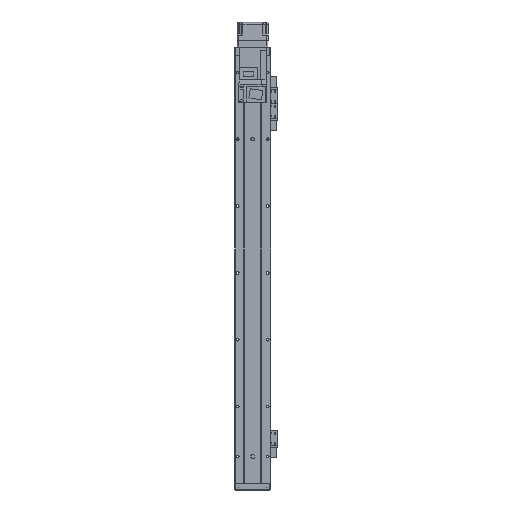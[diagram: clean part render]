
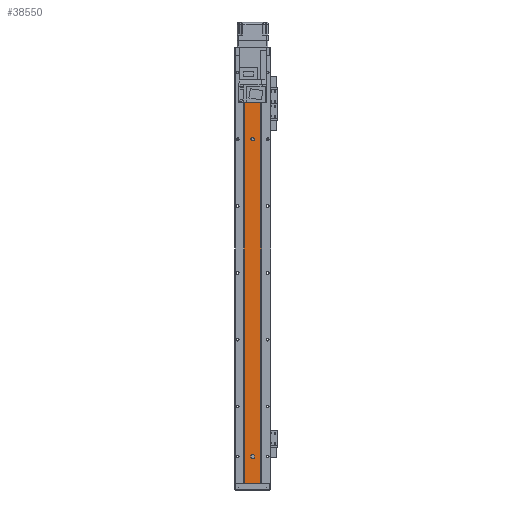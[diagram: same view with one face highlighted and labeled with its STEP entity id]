
A CAD part, front view. The second image highlights one B-rep face of the part: STEP entity #38550.
In plain terms, the highlighted planar face has unit normal (0, -1, 0).
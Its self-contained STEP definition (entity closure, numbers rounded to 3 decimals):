
#325 = CARTESIAN_POINT ( 'NONE',  ( 0., 1.5, -125. ) ) ;
#971 = DIRECTION ( 'NONE',  ( 0., 0., 1. ) ) ;
#1256 = CARTESIAN_POINT ( 'NONE',  ( 12.293, 1.5, -640. ) ) ;
#1282 = DIRECTION ( 'NONE',  ( 0., 0., 1. ) ) ;
#2269 = EDGE_CURVE ( 'NONE', #11235, #27873, #35927, .T. ) ;
#2635 = EDGE_CURVE ( 'NONE', #16797, #16309, #27001, .T. ) ;
#3225 = DIRECTION ( 'NONE',  ( 1., 0., 0. ) ) ;
#3470 = AXIS2_PLACEMENT_3D ( 'NONE', #12808, #33696, #15839 ) ;
#3567 = EDGE_CURVE ( 'NONE', #33153, #11235, #9021, .T. ) ;
#3621 = CARTESIAN_POINT ( 'NONE',  ( -12.293, 1.5, -640. ) ) ;
#3921 = CARTESIAN_POINT ( 'NONE',  ( -2.5, 1.5, -25. ) ) ;
#4511 = CARTESIAN_POINT ( 'NONE',  ( -12.293, 1.5, -640. ) ) ;
#4545 = DIRECTION ( 'NONE',  ( 1., 0., 0. ) ) ;
#4650 = ORIENTED_EDGE ( 'NONE', *, *, #14975, .F. ) ;
#5178 = LINE ( 'NONE', #22709, #16472 ) ;
#5362 = AXIS2_PLACEMENT_3D ( 'NONE', #325, #9255, #3225 ) ;
#5475 = ORIENTED_EDGE ( 'NONE', *, *, #6797, .T. ) ;
#5486 = VECTOR ( 'NONE', #21855, 1000. ) ;
#5569 = CARTESIAN_POINT ( 'NONE',  ( 12.293, 1.5, -640. ) ) ;
#6242 = ORIENTED_EDGE ( 'NONE', *, *, #33366, .F. ) ;
#6783 = LINE ( 'NONE', #5569, #32526 ) ;
#6797 = EDGE_CURVE ( 'NONE', #22012, #27873, #5178, .T. ) ;
#6903 = CARTESIAN_POINT ( 'NONE',  ( -2.5, 1.5, -640. ) ) ;
#7234 = LINE ( 'NONE', #21442, #16206 ) ;
#7575 = CARTESIAN_POINT ( 'NONE',  ( 2.5, 1.5, -601. ) ) ;
#8466 = DIRECTION ( 'NONE',  ( 0., -1., 0. ) ) ;
#8729 = CARTESIAN_POINT ( 'NONE',  ( 0., 1.5, -125. ) ) ;
#9021 = LINE ( 'NONE', #3621, #13198 ) ;
#9255 = DIRECTION ( 'NONE',  ( 0., -1., 0. ) ) ;
#9649 = DIRECTION ( 'NONE',  ( 1., 0., 0. ) ) ;
#9720 = DIRECTION ( 'NONE',  ( 0., -1., 0. ) ) ;
#10001 = CARTESIAN_POINT ( 'NONE',  ( -2.5, 1.5, -601. ) ) ;
#10042 = CARTESIAN_POINT ( 'NONE',  ( 0., 1.5, -25. ) ) ;
#10885 = EDGE_CURVE ( 'NONE', #12295, #31932, #13587, .T. ) ;
#11235 = VERTEX_POINT ( 'NONE', #14636 ) ;
#12295 = VERTEX_POINT ( 'NONE', #38685 ) ;
#12808 = CARTESIAN_POINT ( 'NONE',  ( 0., 1.5, -599. ) ) ;
#13161 = CARTESIAN_POINT ( 'NONE',  ( 0., 1.5, -25. ) ) ;
#13198 = VECTOR ( 'NONE', #971, 1000. ) ;
#13587 = CIRCLE ( 'NONE', #3470, 2.5 ) ;
#13775 = DIRECTION ( 'NONE',  ( 1., 0., 0. ) ) ;
#14163 = EDGE_CURVE ( 'NONE', #20576, #14846, #28273, .T. ) ;
#14332 = DIRECTION ( 'NONE',  ( 1., 0., 0. ) ) ;
#14636 = CARTESIAN_POINT ( 'NONE',  ( -12.293, 1.5, 0. ) ) ;
#14846 = VERTEX_POINT ( 'NONE', #7575 ) ;
#14975 = EDGE_CURVE ( 'NONE', #32635, #28080, #32842, .T. ) ;
#15707 = EDGE_LOOP ( 'NONE', ( #6242, #4650 ) ) ;
#15839 = DIRECTION ( 'NONE',  ( 1., 0., 0. ) ) ;
#16206 = VECTOR ( 'NONE', #24250, 1000. ) ;
#16309 = VERTEX_POINT ( 'NONE', #3921 ) ;
#16387 = FACE_BOUND ( 'NONE', #23757, .T. ) ;
#16472 = VECTOR ( 'NONE', #1282, 1000. ) ;
#16555 = ORIENTED_EDGE ( 'NONE', *, *, #23979, .F. ) ;
#16797 = VERTEX_POINT ( 'NONE', #29661 ) ;
#17354 = FACE_OUTER_BOUND ( 'NONE', #34603, .T. ) ;
#17437 = AXIS2_PLACEMENT_3D ( 'NONE', #8729, #8466, #38817 ) ;
#18206 = VECTOR ( 'NONE', #13775, 1000. ) ;
#19201 = EDGE_LOOP ( 'NONE', ( #22517, #16555, #24526, #28389 ) ) ;
#19294 = CARTESIAN_POINT ( 'NONE',  ( 12.293, 1.5, 0. ) ) ;
#20223 = ORIENTED_EDGE ( 'NONE', *, *, #3567, .F. ) ;
#20576 = VERTEX_POINT ( 'NONE', #10001 ) ;
#20826 = DIRECTION ( 'NONE',  ( 1., 0., 0. ) ) ;
#21442 = CARTESIAN_POINT ( 'NONE',  ( 2.5, 1.5, -640. ) ) ;
#21855 = DIRECTION ( 'NONE',  ( 0., 0., -1. ) ) ;
#21951 = ORIENTED_EDGE ( 'NONE', *, *, #2269, .F. ) ;
#22012 = VERTEX_POINT ( 'NONE', #28990 ) ;
#22207 = DIRECTION ( 'NONE',  ( 1., 0., 0. ) ) ;
#22517 = ORIENTED_EDGE ( 'NONE', *, *, #14163, .F. ) ;
#22709 = CARTESIAN_POINT ( 'NONE',  ( 12.293, 1.5, -640. ) ) ;
#23453 = FACE_BOUND ( 'NONE', #19201, .T. ) ;
#23757 = EDGE_LOOP ( 'NONE', ( #31363, #34678 ) ) ;
#23979 = EDGE_CURVE ( 'NONE', #31932, #20576, #36405, .T. ) ;
#24250 = DIRECTION ( 'NONE',  ( 0., 0., 1. ) ) ;
#24526 = ORIENTED_EDGE ( 'NONE', *, *, #10885, .F. ) ;
#24539 = EDGE_CURVE ( 'NONE', #16309, #16797, #33488, .T. ) ;
#25268 = CARTESIAN_POINT ( 'NONE',  ( -2.5, 1.5, -599. ) ) ;
#25598 = CARTESIAN_POINT ( 'NONE',  ( -2.5, 1.5, -125. ) ) ;
#25692 = AXIS2_PLACEMENT_3D ( 'NONE', #13161, #9720, #22207 ) ;
#26397 = CARTESIAN_POINT ( 'NONE',  ( 0., 1.5, -601. ) ) ;
#26922 = AXIS2_PLACEMENT_3D ( 'NONE', #1256, #34261, #4545 ) ;
#27001 = CIRCLE ( 'NONE', #33648, 2.5 ) ;
#27873 = VERTEX_POINT ( 'NONE', #32426 ) ;
#28073 = FACE_BOUND ( 'NONE', #15707, .T. ) ;
#28080 = VERTEX_POINT ( 'NONE', #36347 ) ;
#28150 = ORIENTED_EDGE ( 'NONE', *, *, #29996, .T. ) ;
#28273 = CIRCLE ( 'NONE', #31178, 2.5 ) ;
#28389 = ORIENTED_EDGE ( 'NONE', *, *, #33535, .F. ) ;
#28637 = PLANE ( 'NONE',  #26922 ) ;
#28990 = CARTESIAN_POINT ( 'NONE',  ( 12.293, 1.5, -640. ) ) ;
#29661 = CARTESIAN_POINT ( 'NONE',  ( 2.5, 1.5, -25. ) ) ;
#29996 = EDGE_CURVE ( 'NONE', #33153, #22012, #6783, .T. ) ;
#30849 = DIRECTION ( 'NONE',  ( 0., -1., 0. ) ) ;
#31178 = AXIS2_PLACEMENT_3D ( 'NONE', #26397, #32056, #14332 ) ;
#31363 = ORIENTED_EDGE ( 'NONE', *, *, #2635, .F. ) ;
#31932 = VERTEX_POINT ( 'NONE', #25268 ) ;
#32056 = DIRECTION ( 'NONE',  ( 0., -1., 0. ) ) ;
#32426 = CARTESIAN_POINT ( 'NONE',  ( 12.293, 1.5, 0. ) ) ;
#32526 = VECTOR ( 'NONE', #20826, 1000. ) ;
#32635 = VERTEX_POINT ( 'NONE', #25598 ) ;
#32842 = CIRCLE ( 'NONE', #5362, 2.5 ) ;
#33153 = VERTEX_POINT ( 'NONE', #4511 ) ;
#33366 = EDGE_CURVE ( 'NONE', #28080, #32635, #33464, .T. ) ;
#33464 = CIRCLE ( 'NONE', #17437, 2.5 ) ;
#33488 = CIRCLE ( 'NONE', #25692, 2.5 ) ;
#33535 = EDGE_CURVE ( 'NONE', #14846, #12295, #7234, .T. ) ;
#33648 = AXIS2_PLACEMENT_3D ( 'NONE', #10042, #30849, #9649 ) ;
#33696 = DIRECTION ( 'NONE',  ( 0., -1., 0. ) ) ;
#34261 = DIRECTION ( 'NONE',  ( 0., -1., 0. ) ) ;
#34603 = EDGE_LOOP ( 'NONE', ( #21951, #20223, #28150, #5475 ) ) ;
#34678 = ORIENTED_EDGE ( 'NONE', *, *, #24539, .F. ) ;
#35927 = LINE ( 'NONE', #19294, #18206 ) ;
#36347 = CARTESIAN_POINT ( 'NONE',  ( 2.5, 1.5, -125. ) ) ;
#36405 = LINE ( 'NONE', #6903, #5486 ) ;
#38550 = ADVANCED_FACE ( 'NONE', ( #23453, #28073, #16387, #17354 ), #28637, .T. ) ;
#38685 = CARTESIAN_POINT ( 'NONE',  ( 2.5, 1.5, -599. ) ) ;
#38817 = DIRECTION ( 'NONE',  ( 1., 0., 0. ) ) ;
